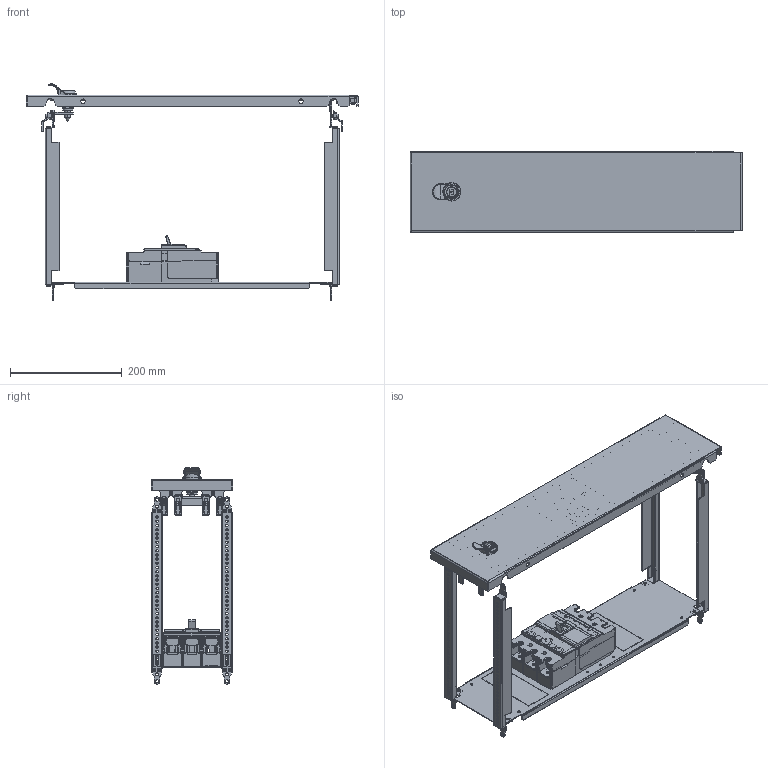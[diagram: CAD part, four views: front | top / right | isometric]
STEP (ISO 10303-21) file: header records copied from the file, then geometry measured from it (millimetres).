
FILE_DESCRIPTION(('CAx-IF Rec.Pracs.---Model Styling and Organization---1.2---2011-12-15','CAx-IF Rec.Pracs.---Geometric and Assembly Validation Properties---4.1---2014-06-16','CAx-IF Rec.Pracs.---PMI Polyline Presentation---2.0---2013-05-24'),'2;1');
FILE_NAME('R5PKEB7H61113.stp','2021-07-29T02:08:02+03:00',(''),(''),'STEP Interface 4.4 by CT CoreTechnologie','3D_Evolution4.4 by CT CoreTechnologie','');
FILE_SCHEMA(('AUTOMOTIVE_DESIGN { 1 0 10303 214 1 1 1 1 }'));
Length unit declared in the file: millimetre
Products named in the file (1): R5PKEB7H61113
Bounding box: 594 x 145 x 386.9 mm (x, y, z)
Surface area: 763373.3 mm2 (no closed solid volume)
Topology: 0 solids, 84 shells, 3183 faces, 10138 edges, 6953 vertices
Faces by surface type: plane 1501, cylinder 1278, bspline 404
Entity records: 125295 total; most frequent: CARTESIAN_POINT 35370, ORIENTED_EDGE 18333, DIRECTION 18249, EDGE_CURVE 10096, VERTEX_POINT 6953, VECTOR 6585, LINE 6585, AXIS2_PLACEMENT_3D 5832
